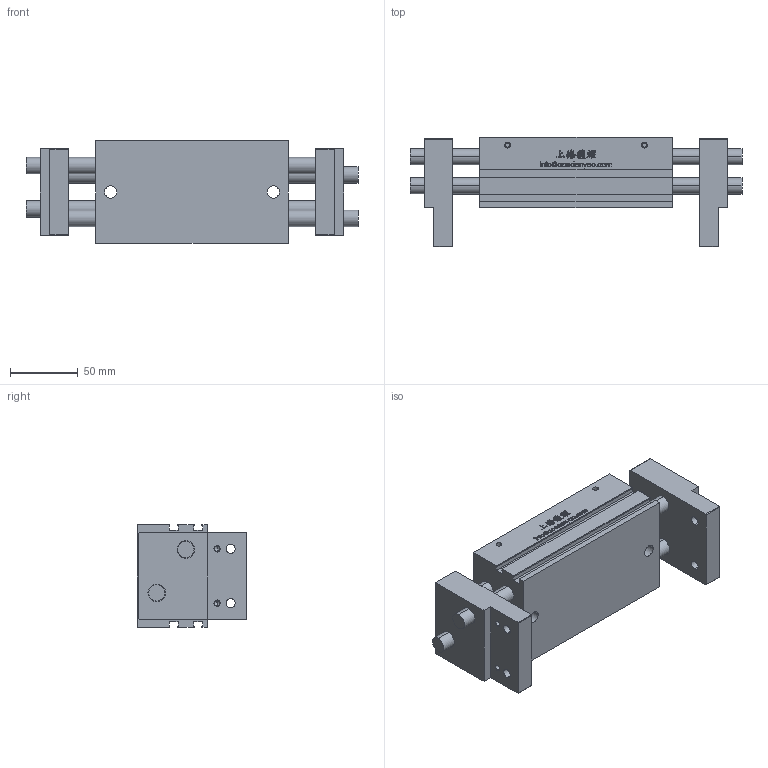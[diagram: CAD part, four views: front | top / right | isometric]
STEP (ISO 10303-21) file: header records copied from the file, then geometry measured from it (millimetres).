
FILE_DESCRIPTION (( 'STEP AP203' ), '1' );
FILE_NAME ('PLE-25-C-50+50-原始檔-組合-W106.04.20.STEP', '2017-04-20T06:20:41', ( 'DanyaoCAD' ), ( '' ), 'SwSTEP 2.0', 'SolidWorks 2016', '' );
FILE_SCHEMA (( 'CONFIG_CONTROL_DESIGN' ));
Length unit declared in the file: millimetre
Products named in the file (3): Griffa; Corpo PLE-25; PLE-25-C-50+50-原始檔-組合-W106.04.20
Assembly tree (3 placements, depth 2):
  PLE-25-C-50+50-原始檔-組合-W106.04.20
    Griffa  x2
    Corpo PLE-25
Bounding box: 245 x 81 x 76 mm (x, y, z)
Volume: 740460.3 mm3; surface area: 144835.2 mm2
Topology: 3 solids, 3 shells, 988 faces, 2762 edges, 1819 vertices
Faces by surface type: bspline 640, plane 225, cylinder 79, cone 44
Entity records: 47087 total; most frequent: CARTESIAN_POINT 26652, ORIENTED_EDGE 5292, EDGE_CURVE 2646, DIRECTION 2132, VERTEX_POINT 1757, B_SPLINE_CURVE_WITH_KNOTS 1295, VECTOR 1202, LINE 1202
